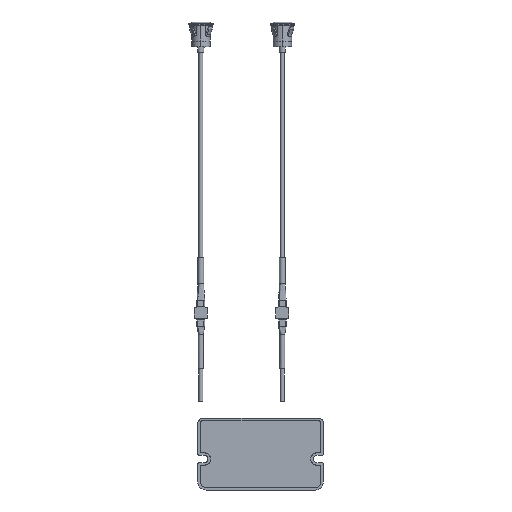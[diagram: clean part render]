
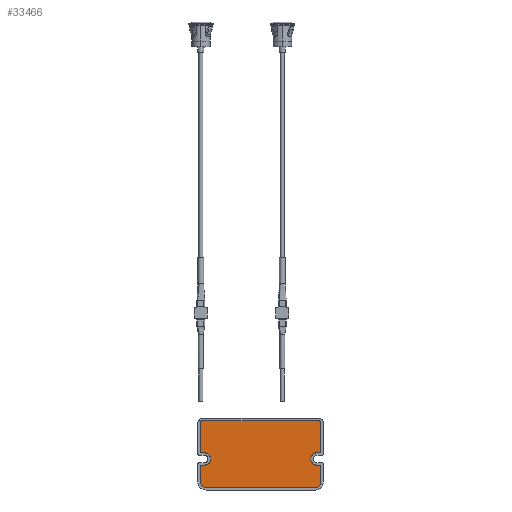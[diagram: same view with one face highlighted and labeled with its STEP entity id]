
A CAD part, front view. The second image highlights one B-rep face of the part: STEP entity #33466.
In plain terms, the highlighted planar face has unit normal (0, -1, 0).
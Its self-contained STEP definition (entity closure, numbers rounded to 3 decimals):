
#1774 = CIRCLE ( 'NONE', #18056, 3.4 ) ;
#2300 = DIRECTION ( 'NONE',  ( 1., 0., 0. ) ) ;
#2891 = VECTOR ( 'NONE', #15787, 1000. ) ;
#2930 = CARTESIAN_POINT ( 'NONE',  ( -120.846, -24.659, 20.4 ) ) ;
#3143 = LINE ( 'NONE', #21897, #55797 ) ;
#3818 = DIRECTION ( 'NONE',  ( 0., 0., -1. ) ) ;
#4587 = VERTEX_POINT ( 'NONE', #41729 ) ;
#5266 = CARTESIAN_POINT ( 'NONE',  ( -51.846, -24.659, -20.4 ) ) ;
#6160 = CARTESIAN_POINT ( 'NONE',  ( -50.846, -24.659, -6.8 ) ) ;
#6668 = CARTESIAN_POINT ( 'NONE',  ( -118.846, -24.659, -17. ) ) ;
#6776 = VERTEX_POINT ( 'NONE', #68857 ) ;
#7687 = DIRECTION ( 'NONE',  ( 0., 0., 1. ) ) ;
#8430 = LINE ( 'NONE', #49037, #68499 ) ;
#8643 = EDGE_CURVE ( 'NONE', #65430, #13436, #35326, .T. ) ;
#9014 = CIRCLE ( 'NONE', #37886, 3.8 ) ;
#11819 = LINE ( 'NONE', #74917, #37560 ) ;
#12451 = DIRECTION ( 'NONE',  ( 0., 0., -1. ) ) ;
#12975 = VERTEX_POINT ( 'NONE', #84247 ) ;
#13436 = VERTEX_POINT ( 'NONE', #62216 ) ;
#14137 = DIRECTION ( 'NONE',  ( 1., 0., 0. ) ) ;
#15263 = DIRECTION ( 'NONE',  ( -1., 0., 0. ) ) ;
#15787 = DIRECTION ( 'NONE',  ( -1., 0., 0. ) ) ;
#15871 = CARTESIAN_POINT ( 'NONE',  ( -48.446, -24.659, 0.8 ) ) ;
#15985 = VERTEX_POINT ( 'NONE', #30778 ) ;
#16171 = CARTESIAN_POINT ( 'NONE',  ( -51.846, -24.659, -6.8 ) ) ;
#16327 = VERTEX_POINT ( 'NONE', #82620 ) ;
#18056 = AXIS2_PLACEMENT_3D ( 'NONE', #6668, #61575, #62154 ) ;
#19729 = DIRECTION ( 'NONE',  ( 0., 0., -1. ) ) ;
#21237 = CARTESIAN_POINT ( 'NONE',  ( -122.246, -24.659, -17. ) ) ;
#21897 = CARTESIAN_POINT ( 'NONE',  ( -51.846, -24.659, 0.8 ) ) ;
#23496 = PLANE ( 'NONE',  #85700 ) ;
#25168 = DIRECTION ( 'NONE',  ( 0., 1., 0. ) ) ;
#25636 = VERTEX_POINT ( 'NONE', #86344 ) ;
#25678 = CARTESIAN_POINT ( 'NONE',  ( -120.846, -24.659, 19. ) ) ;
#25813 = EDGE_CURVE ( 'NONE', #16327, #12975, #79691, .T. ) ;
#28509 = VECTOR ( 'NONE', #82807, 1000. ) ;
#30441 = EDGE_CURVE ( 'NONE', #13436, #6776, #84253, .T. ) ;
#30778 = CARTESIAN_POINT ( 'NONE',  ( -122.246, -24.659, 0.8 ) ) ;
#31326 = VECTOR ( 'NONE', #14137, 1000. ) ;
#31569 = AXIS2_PLACEMENT_3D ( 'NONE', #51876, #52182, #3818 ) ;
#31979 = ORIENTED_EDGE ( 'NONE', *, *, #8643, .F. ) ;
#33466 = ADVANCED_FACE ( 'NONE', ( #44443 ), #23496, .F. ) ;
#34823 = VERTEX_POINT ( 'NONE', #75947 ) ;
#35326 = LINE ( 'NONE', #16171, #65333 ) ;
#36211 = VERTEX_POINT ( 'NONE', #75026 ) ;
#36854 = ORIENTED_EDGE ( 'NONE', *, *, #30441, .F. ) ;
#36863 = EDGE_CURVE ( 'NONE', #6776, #36971, #81343, .T. ) ;
#36971 = VERTEX_POINT ( 'NONE', #5266 ) ;
#37560 = VECTOR ( 'NONE', #61142, 1000. ) ;
#37886 = AXIS2_PLACEMENT_3D ( 'NONE', #86408, #52196, #45283 ) ;
#38330 = VERTEX_POINT ( 'NONE', #54184 ) ;
#39288 = VERTEX_POINT ( 'NONE', #51857 ) ;
#40053 = DIRECTION ( 'NONE',  ( -1., 0., 0. ) ) ;
#41581 = VERTEX_POINT ( 'NONE', #15871 ) ;
#41729 = CARTESIAN_POINT ( 'NONE',  ( -50.846, -24.659, 0.8 ) ) ;
#42019 = CARTESIAN_POINT ( 'NONE',  ( -51.846, -24.659, 20.4 ) ) ;
#42849 = CIRCLE ( 'NONE', #59288, 1.4 ) ;
#44443 = FACE_OUTER_BOUND ( 'NONE', #57719, .T. ) ;
#44949 = VECTOR ( 'NONE', #77474, 1000. ) ;
#45228 = DIRECTION ( 'NONE',  ( 0., 0., -1. ) ) ;
#45282 = EDGE_CURVE ( 'NONE', #70451, #16327, #56023, .T. ) ;
#45283 = DIRECTION ( 'NONE',  ( 0., 0., -1. ) ) ;
#46061 = DIRECTION ( 'NONE',  ( 0., 1., 0. ) ) ;
#47023 = ORIENTED_EDGE ( 'NONE', *, *, #78132, .F. ) ;
#49037 = CARTESIAN_POINT ( 'NONE',  ( -48.446, -24.659, -17. ) ) ;
#49074 = ORIENTED_EDGE ( 'NONE', *, *, #57756, .F. ) ;
#49679 = VECTOR ( 'NONE', #7687, 1000. ) ;
#50269 = CARTESIAN_POINT ( 'NONE',  ( -51.846, -24.659, 0.8 ) ) ;
#50444 = DIRECTION ( 'NONE',  ( 0., 0., 1. ) ) ;
#50919 = EDGE_CURVE ( 'NONE', #53634, #34823, #9014, .T. ) ;
#51347 = DIRECTION ( 'NONE',  ( 0., 1., 0. ) ) ;
#51768 = EDGE_CURVE ( 'NONE', #36971, #38330, #88386, .T. ) ;
#51857 = CARTESIAN_POINT ( 'NONE',  ( -122.246, -24.659, -6.8 ) ) ;
#51876 = CARTESIAN_POINT ( 'NONE',  ( -50.846, -24.659, -3. ) ) ;
#52091 = ORIENTED_EDGE ( 'NONE', *, *, #85201, .F. ) ;
#52182 = DIRECTION ( 'NONE',  ( 0., -1., 0. ) ) ;
#52196 = DIRECTION ( 'NONE',  ( 0., -1., 0. ) ) ;
#53634 = VERTEX_POINT ( 'NONE', #54511 ) ;
#53697 = EDGE_CURVE ( 'NONE', #25636, #70451, #42849, .T. ) ;
#54184 = CARTESIAN_POINT ( 'NONE',  ( -118.846, -24.659, -20.4 ) ) ;
#54511 = CARTESIAN_POINT ( 'NONE',  ( -119.846, -24.659, -6.8 ) ) ;
#54886 = EDGE_CURVE ( 'NONE', #38330, #36211, #1774, .T. ) ;
#55797 = VECTOR ( 'NONE', #15263, 1000. ) ;
#56023 = LINE ( 'NONE', #42019, #31326 ) ;
#57719 = EDGE_LOOP ( 'NONE', ( #31979, #88347, #73509, #63851, #67327, #85086, #86099, #49074, #47023, #73530, #60458, #52091, #61119, #58350, #84209, #36854 ) ) ;
#57756 = EDGE_CURVE ( 'NONE', #15985, #25636, #61425, .T. ) ;
#58350 = ORIENTED_EDGE ( 'NONE', *, *, #51768, .F. ) ;
#59288 = AXIS2_PLACEMENT_3D ( 'NONE', #25678, #46061, #12451 ) ;
#60458 = ORIENTED_EDGE ( 'NONE', *, *, #67372, .F. ) ;
#61119 = ORIENTED_EDGE ( 'NONE', *, *, #54886, .F. ) ;
#61142 = DIRECTION ( 'NONE',  ( 1., 0., 0. ) ) ;
#61425 = LINE ( 'NONE', #21237, #49679 ) ;
#61575 = DIRECTION ( 'NONE',  ( 0., 1., 0. ) ) ;
#62154 = DIRECTION ( 'NONE',  ( 0., 0., -1. ) ) ;
#62216 = CARTESIAN_POINT ( 'NONE',  ( -48.446, -24.659, -6.8 ) ) ;
#63271 = CARTESIAN_POINT ( 'NONE',  ( -122.246, -24.659, -17. ) ) ;
#63851 = ORIENTED_EDGE ( 'NONE', *, *, #76765, .F. ) ;
#63988 = AXIS2_PLACEMENT_3D ( 'NONE', #67963, #67671, #19729 ) ;
#65333 = VECTOR ( 'NONE', #2300, 1000. ) ;
#65430 = VERTEX_POINT ( 'NONE', #6160 ) ;
#67327 = ORIENTED_EDGE ( 'NONE', *, *, #25813, .F. ) ;
#67372 = EDGE_CURVE ( 'NONE', #39288, #53634, #11819, .T. ) ;
#67585 = EDGE_CURVE ( 'NONE', #41581, #4587, #3143, .T. ) ;
#67671 = DIRECTION ( 'NONE',  ( 0., 1., 0. ) ) ;
#67963 = CARTESIAN_POINT ( 'NONE',  ( -49.846, -24.659, 19. ) ) ;
#68499 = VECTOR ( 'NONE', #83512, 1000. ) ;
#68857 = CARTESIAN_POINT ( 'NONE',  ( -48.446, -24.659, -17. ) ) ;
#70451 = VERTEX_POINT ( 'NONE', #2930 ) ;
#72258 = VECTOR ( 'NONE', #40053, 1000. ) ;
#73509 = ORIENTED_EDGE ( 'NONE', *, *, #67585, .F. ) ;
#73530 = ORIENTED_EDGE ( 'NONE', *, *, #50919, .F. ) ;
#74917 = CARTESIAN_POINT ( 'NONE',  ( -51.846, -24.659, -6.8 ) ) ;
#75026 = CARTESIAN_POINT ( 'NONE',  ( -122.246, -24.659, -17. ) ) ;
#75305 = CIRCLE ( 'NONE', #31569, 3.8 ) ;
#75947 = CARTESIAN_POINT ( 'NONE',  ( -119.846, -24.659, 0.8 ) ) ;
#76765 = EDGE_CURVE ( 'NONE', #12975, #41581, #8430, .T. ) ;
#77474 = DIRECTION ( 'NONE',  ( 0., 0., 1. ) ) ;
#78072 = LINE ( 'NONE', #50269, #2891 ) ;
#78132 = EDGE_CURVE ( 'NONE', #34823, #15985, #78072, .T. ) ;
#78979 = AXIS2_PLACEMENT_3D ( 'NONE', #79709, #25168, #45228 ) ;
#79691 = CIRCLE ( 'NONE', #63988, 1.4 ) ;
#79709 = CARTESIAN_POINT ( 'NONE',  ( -51.846, -24.659, -17. ) ) ;
#81343 = CIRCLE ( 'NONE', #78979, 3.4 ) ;
#82228 = CARTESIAN_POINT ( 'NONE',  ( -48.446, -24.659, -17. ) ) ;
#82620 = CARTESIAN_POINT ( 'NONE',  ( -49.846, -24.659, 20.4 ) ) ;
#82807 = DIRECTION ( 'NONE',  ( 0., 0., -1. ) ) ;
#83512 = DIRECTION ( 'NONE',  ( 0., 0., -1. ) ) ;
#84209 = ORIENTED_EDGE ( 'NONE', *, *, #36863, .F. ) ;
#84247 = CARTESIAN_POINT ( 'NONE',  ( -48.446, -24.659, 19. ) ) ;
#84253 = LINE ( 'NONE', #82228, #28509 ) ;
#84640 = CARTESIAN_POINT ( 'NONE',  ( -51.846, -24.659, -17. ) ) ;
#85086 = ORIENTED_EDGE ( 'NONE', *, *, #45282, .F. ) ;
#85201 = EDGE_CURVE ( 'NONE', #36211, #39288, #87939, .T. ) ;
#85700 = AXIS2_PLACEMENT_3D ( 'NONE', #84640, #51347, #50444 ) ;
#86099 = ORIENTED_EDGE ( 'NONE', *, *, #53697, .F. ) ;
#86344 = CARTESIAN_POINT ( 'NONE',  ( -122.246, -24.659, 19. ) ) ;
#86408 = CARTESIAN_POINT ( 'NONE',  ( -119.846, -24.659, -3. ) ) ;
#87939 = LINE ( 'NONE', #63271, #44949 ) ;
#88009 = EDGE_CURVE ( 'NONE', #4587, #65430, #75305, .T. ) ;
#88347 = ORIENTED_EDGE ( 'NONE', *, *, #88009, .F. ) ;
#88386 = LINE ( 'NONE', #88646, #72258 ) ;
#88646 = CARTESIAN_POINT ( 'NONE',  ( -51.846, -24.659, -20.4 ) ) ;
